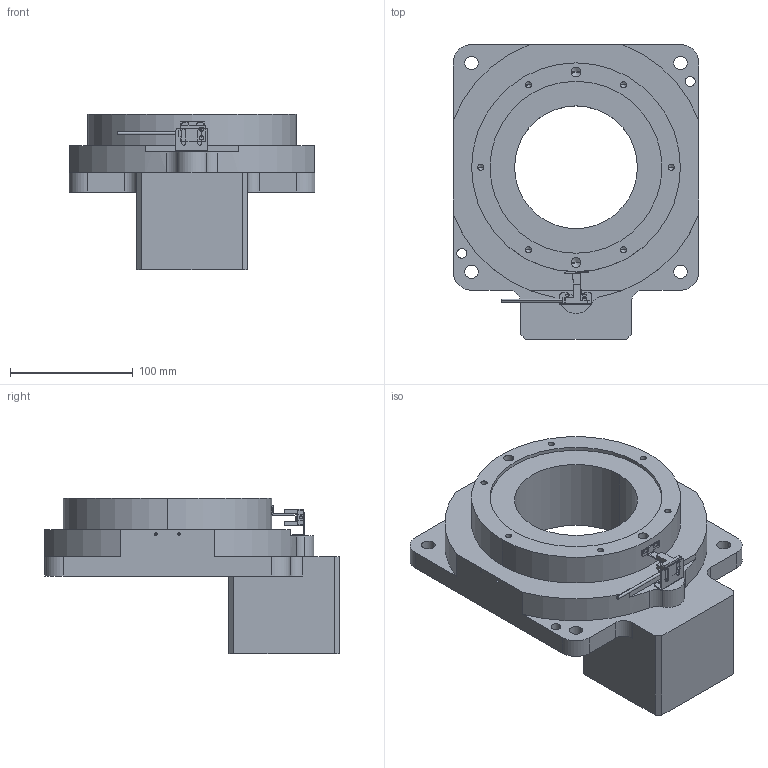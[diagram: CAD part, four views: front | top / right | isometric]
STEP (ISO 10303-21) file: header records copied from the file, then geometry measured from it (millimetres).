
FILE_DESCRIPTION (( 'STEP AP203' ), '1' );
FILE_NAME ('RTN200-10K-19-70-90-M6(¼Ó¸ß63.5).STEP', '2024-05-21T10:27:48', ( '' ), ( '' ), 'SwSTEP 2.0', 'SolidWorks 2023', '' );
FILE_SCHEMA (( 'CONFIG_CONTROL_DESIGN' ));
Length unit declared in the file: millimetre
Products named in the file (1): RTN200-10K-19-70-90-M6(加高63.5)
Bounding box: 200 x 240 x 127 mm (x, y, z)
Volume: 1953176.4 mm3; surface area: 171086.5 mm2
Topology: 4 solids, 6 shells, 266 faces, 703 edges, 435 vertices
Faces by surface type: cylinder 115, plane 111, cone 40
Entity records: 8079 total; most frequent: DIRECTION 1430, CARTESIAN_POINT 1365, ORIENTED_EDGE 1326, EDGE_CURVE 663, AXIS2_PLACEMENT_3D 500, VERTEX_POINT 435, VECTOR 430, LINE 430
